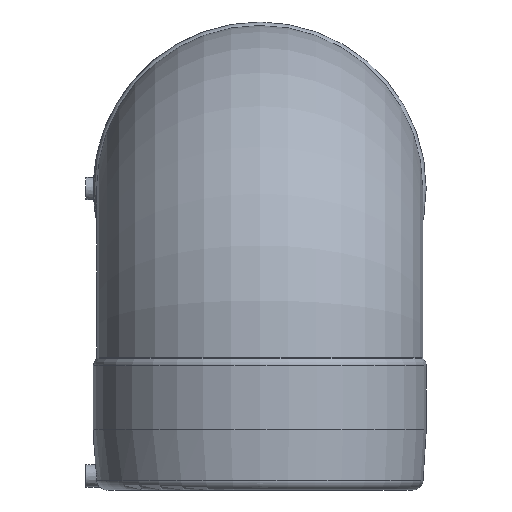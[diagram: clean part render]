
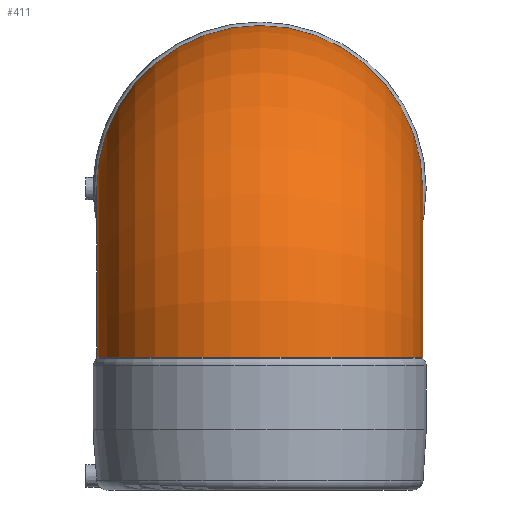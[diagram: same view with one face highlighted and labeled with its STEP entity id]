
A CAD part, left-side view. The second image highlights one B-rep face of the part: STEP entity #411.
In plain terms, the highlighted toroidal (fillet/blend) face has major radius 145 mm and minor radius 140 mm.
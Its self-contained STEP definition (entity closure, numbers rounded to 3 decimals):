
#49=TOROIDAL_SURFACE('',#475,145.,140.);
#66=CIRCLE('',#474,140.);
#67=CIRCLE('',#476,140.);
#115=ORIENTED_EDGE('',*,*,#193,.F.);
#116=ORIENTED_EDGE('',*,*,#194,.T.);
#193=EDGE_CURVE('',#233,#233,#66,.F.);
#194=EDGE_CURVE('',#234,#234,#67,.F.);
#233=VERTEX_POINT('',#798);
#234=VERTEX_POINT('',#801);
#284=EDGE_LOOP('',(#115));
#285=EDGE_LOOP('',(#116));
#351=FACE_BOUND('',#284,.T.);
#352=FACE_BOUND('',#285,.T.);
#411=ADVANCED_FACE('',(#351,#352),#49,.T.);
#474=AXIS2_PLACEMENT_3D('',#797,#568,#569);
#475=AXIS2_PLACEMENT_3D('',#799,#570,#571);
#476=AXIS2_PLACEMENT_3D('',#800,#572,#573);
#568=DIRECTION('',(-1.,0.,0.));
#569=DIRECTION('',(0.,0.,-1.));
#570=DIRECTION('',(0.,1.,0.));
#571=DIRECTION('',(0.,0.,1.));
#572=DIRECTION('',(0.,0.,-1.));
#573=DIRECTION('',(1.,0.,0.));
#797=CARTESIAN_POINT('',(145.,0.,259.));
#798=CARTESIAN_POINT('',(145.,0.,119.));
#799=CARTESIAN_POINT('',(145.,0.,114.));
#800=CARTESIAN_POINT('',(0.,0.,114.));
#801=CARTESIAN_POINT('',(140.,0.,114.));
